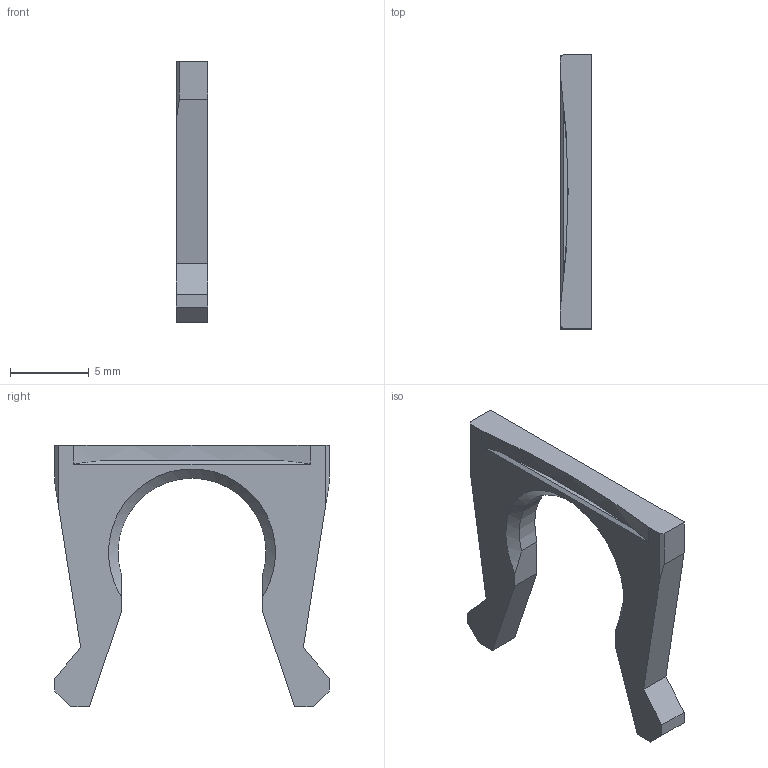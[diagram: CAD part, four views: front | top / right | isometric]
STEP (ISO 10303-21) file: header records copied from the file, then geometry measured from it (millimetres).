
FILE_DESCRIPTION(/* description */ ('STEP AP242','CAx-IF Rec.Pracs.---Representation and Presentation of Product Manufacturing Information (PMI)---4.0---2014-10-13','CAx-IF Rec.Pracs.---3D Tessellated Geometry---0.4---2014-09-14','2;1'),/* implementation_level */ '2;1');
FILE_NAME(/* name */ '66d582637ff2bb0e4bdd9aaf',/* time_stamp */ '2024-09-02T09:16:20Z',/* author */ (''),/* organization */ (''),/* preprocessor_version */ 'ST-DEVELOPER v20',/* originating_system */ ' ',/* authorisation */ ' ');
FILE_SCHEMA (('AP242_MANAGED_MODEL_BASED_3D_ENGINEERING_MIM_LF { 1 0 10303 442 1 1 4 }'));
Length unit declared in the file: metre
Products named in the file (1): Pin
Bounding box: 2 x 17.4 x 16.6 mm (x, y, z)
Volume: 255.8 mm3; surface area: 436.6 mm2
Topology: 1 solids, 1 shells, 26 faces, 72 edges, 48 vertices
Faces by surface type: plane 23, cylinder 2, cone 1
Entity records: 847 total; most frequent: CARTESIAN_POINT 153, ORIENTED_EDGE 144, DIRECTION 131, EDGE_CURVE 72, LINE 63, VECTOR 63, VERTEX_POINT 48, AXIS2_PLACEMENT_3D 34
